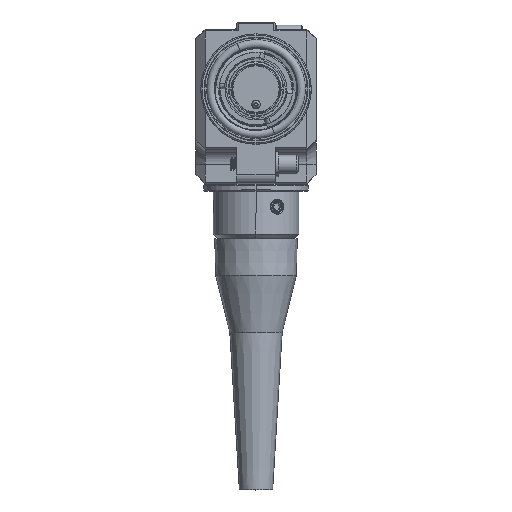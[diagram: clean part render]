
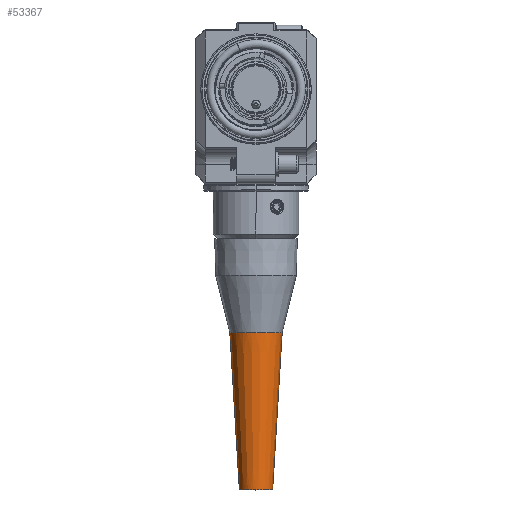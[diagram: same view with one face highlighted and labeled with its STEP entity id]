
A CAD part, top view. The second image highlights one B-rep face of the part: STEP entity #53367.
In plain terms, the highlighted conical face has half-angle 3.468 degrees and reference radius 3.5 mm.
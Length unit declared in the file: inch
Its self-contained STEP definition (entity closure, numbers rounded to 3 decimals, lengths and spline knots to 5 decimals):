
#50 = EDGE_LOOP ( 'NONE', ( #17078, #9704, #43873, #6775 ) ) ;
#474 = DIRECTION ( 'NONE',  ( 1., 0., 0. ) ) ;
#3354 = CARTESIAN_POINT ( 'NONE',  ( 0., -2.01083, -2.23025 ) ) ;
#3892 = CIRCLE ( 'NONE', #15675, 0.21654 ) ;
#6735 = AXIS2_PLACEMENT_3D ( 'NONE', #50685, #33480, #30023 ) ;
#6775 = ORIENTED_EDGE ( 'NONE', *, *, #17852, .F. ) ;
#8039 = CARTESIAN_POINT ( 'NONE',  ( 0.1378, -3.31004, -2.23025 ) ) ;
#8087 = VECTOR ( 'NONE', #51811, 39.37008 ) ;
#9704 = ORIENTED_EDGE ( 'NONE', *, *, #24006, .T. ) ;
#10473 = VECTOR ( 'NONE', #29981, 39.37008 ) ;
#14140 = VERTEX_POINT ( 'NONE', #45444 ) ;
#15675 = AXIS2_PLACEMENT_3D ( 'NONE', #3354, #25851, #474 ) ;
#17078 = ORIENTED_EDGE ( 'NONE', *, *, #38478, .F. ) ;
#17852 = EDGE_CURVE ( 'NONE', #14140, #36203, #3892, .T. ) ;
#20589 = LINE ( 'NONE', #8039, #10473 ) ;
#21983 = VERTEX_POINT ( 'NONE', #52832 ) ;
#22133 = DIRECTION ( 'NONE',  ( 1., 0., 0. ) ) ;
#24006 = EDGE_CURVE ( 'NONE', #49238, #21983, #52228, .T. ) ;
#24229 = CARTESIAN_POINT ( 'NONE',  ( 0.21654, -2.01083, -2.23025 ) ) ;
#25851 = DIRECTION ( 'NONE',  ( 0., 1., 0. ) ) ;
#29981 = DIRECTION ( 'NONE',  ( 0.06, 0.998, 0. ) ) ;
#30023 = DIRECTION ( 'NONE',  ( 1., 0., 0. ) ) ;
#33480 = DIRECTION ( 'NONE',  ( 0., 1., 0. ) ) ;
#34035 = FACE_OUTER_BOUND ( 'NONE', #50, .T. ) ;
#34054 = LINE ( 'NONE', #38079, #8087 ) ;
#35007 = CARTESIAN_POINT ( 'NONE',  ( 0., -3.31004, -2.23025 ) ) ;
#35740 = AXIS2_PLACEMENT_3D ( 'NONE', #35007, #52481, #22133 ) ;
#36203 = VERTEX_POINT ( 'NONE', #24229 ) ;
#38079 = CARTESIAN_POINT ( 'NONE',  ( -0.1378, -3.31004, -2.23025 ) ) ;
#38115 = CARTESIAN_POINT ( 'NONE',  ( -0.1378, -3.31004, -2.23025 ) ) ;
#38478 = EDGE_CURVE ( 'NONE', #49238, #14140, #34054, .T. ) ;
#43873 = ORIENTED_EDGE ( 'NONE', *, *, #55600, .T. ) ;
#44095 = CONICAL_SURFACE ( 'NONE', #6735, 0.1378, 0.061 ) ;
#45444 = CARTESIAN_POINT ( 'NONE',  ( -0.21654, -2.01083, -2.23025 ) ) ;
#49238 = VERTEX_POINT ( 'NONE', #38115 ) ;
#50685 = CARTESIAN_POINT ( 'NONE',  ( 0., -3.31004, -2.23025 ) ) ;
#51811 = DIRECTION ( 'NONE',  ( -0.06, 0.998, 0. ) ) ;
#52228 = CIRCLE ( 'NONE', #35740, 0.1378 ) ;
#52481 = DIRECTION ( 'NONE',  ( 0., 1., 0. ) ) ;
#52832 = CARTESIAN_POINT ( 'NONE',  ( 0.1378, -3.31004, -2.23025 ) ) ;
#53367 = ADVANCED_FACE ( 'NONE', ( #34035 ), #44095, .T. ) ;
#55600 = EDGE_CURVE ( 'NONE', #21983, #36203, #20589, .T. ) ;
